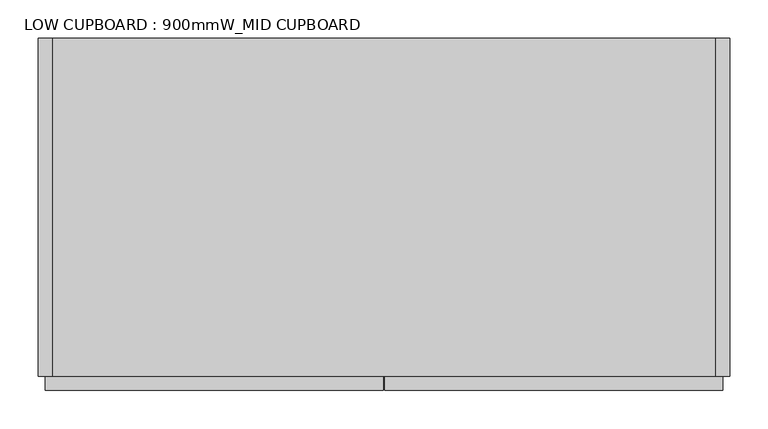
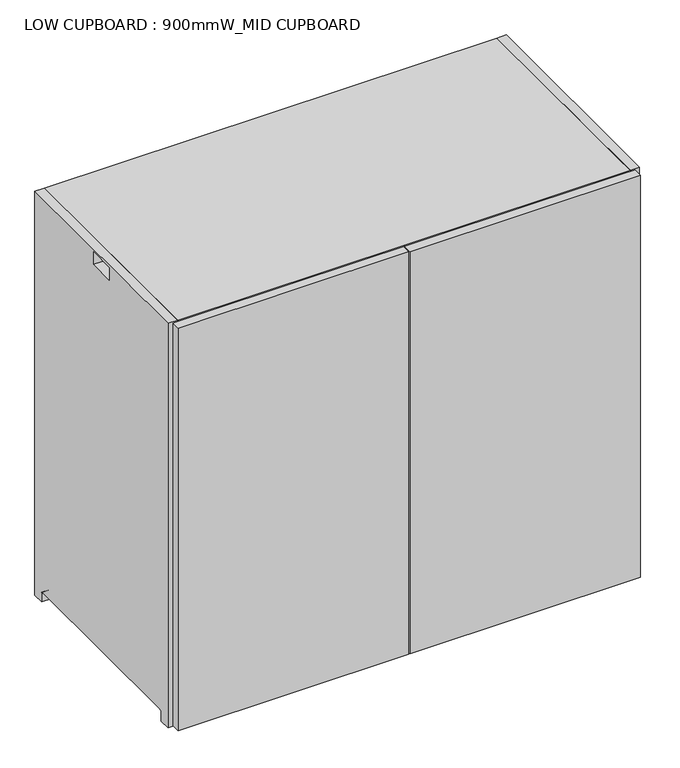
"""IFC4 building model written with IfcOpenShell, lengths in millimetres: furniture geometry, LOW CUPBOARD : 900mmW_MID CUPBOARD."""

from ifc_helpers import new_model, si_unit, point, frame, frame_2d, origin, place, context, project, spatial, polyline, circle_curve, trimmed, segment, composite_curve, outline, extrude, source, transform, mapped, element, save
from ifc_brep_helpers import plane_surface, revolved_surface, advanced_brep


def low_cupboard_900mmw_mid_cupboard_93831afd(model_context):
    return source(origin(), model_context, "Body", "SolidModel", [
        extrude(outline(composite_curve([segment(polyline([(-220.0, 815.0), (220.0, 815.0), (220.0, 0.0), (198.0, 0.0), (198.0, 17.0)]), True, "CONTINUOUS"), segment(trimmed(circle_curve(frame_2d((194.0, 17.0)), 4.0), [point((198.0, 17.0))], [point((194.0, 21.0))], True, "CARTESIAN"), True, "CONTINUOUS"), segment(polyline([(194.0, 21.0), (-194.0, 21.0)]), True, "CONTINUOUS"), segment(trimmed(circle_curve(frame_2d((-194.0, 17.0)), 4.0), [point((-194.0, 21.0))], [point((-198.0, 17.0))], True, "CARTESIAN"), True, "CONTINUOUS"), segment(polyline([(-198.0, 17.0), (-198.0, 0.0), (-220.0, 0.0), (-220.0, 815.0)]), True, "CONTINUOUS")], self_intersect=False), holes=[polyline([(-26.0, 810.0), (-26.0, 785.0), (26.0, 785.0), (26.0, 810.0), (-26.0, 810.0)])]), frame((-450.0, 0.0, 0.0), z_axis=(1.0, 0.0, 0.0), x_axis=(0.0, 1.0, 0.0)), (0.0, 0.0, 1.0), 18.0),
        advanced_brep(
        [(432.0, 220.0, 18.0), (-432.0, 220.0, 18.0), (-432.0, 197.8729833, 18.0), (-426.1019215, 197.8729833, 18.0), (-426.1019215, -197.8729833, 18.0), (-432.0, -197.8729833, 18.0), (-432.0, -220.0, 18.0), (432.0, -220.0, 18.0), (432.0, 220.0, 0.0), (432.0, -220.0, 0.0), (-432.0, -220.0, 0.0), (-432.0, -198.0, 0.0), (-426.1019215, -198.0, 0.0), (-426.1019215, 198.0, 0.0), (-432.0, 198.0, 0.0), (-432.0, 220.0, 0.0), (-432.0, 198.0, 17.0), (-432.0, -198.0, 17.0), (-426.1019215, 198.0, 17.0), (-426.1019215, -198.0, 17.0)],
        [
            (0, 1),
            (1, 2),
            (2, 3),
            (3, 4),
            (4, 5),
            (5, 6),
            (6, 7),
            (7, 0),
            (8, 9),
            (9, 10),
            (10, 11),
            (11, 12),
            (12, 13),
            (13, 14),
            (14, 15),
            (15, 8),
            (0, 8),
            (15, 1),
            (14, 16),
            (16, 2, circle_curve(frame((-432.0, 194.0, 17.0), z_axis=(1.0, 0.0, 0.0), x_axis=(0.0, 1.0, 0.0)), 4.0)),
            (10, 6),
            (5, 17, circle_curve(frame((-432.0, -194.0, 17.0), z_axis=(1.0, 0.0, 0.0), x_axis=(0.0, 1.0, 0.0)), 4.0)),
            (17, 11),
            (9, 7),
            (18, 13),
            (12, 19),
            (19, 4, circle_curve(frame((-426.1019215, -194.0, 17.0), z_axis=(-1.0, 0.0, 0.0), x_axis=(0.0, 1.0, 0.0)), 4.0)),
            (3, 18, circle_curve(frame((-426.1019215, 194.0, 17.0), z_axis=(-1.0, 0.0, 0.0), x_axis=(0.0, 1.0, 0.0)), 4.0)),
            (19, 17),
            (18, 16),
        ],
        [
            plane_surface(frame((-432.0, 220.0, 18.0), z_axis=(0.0, 0.0, 1.0), x_axis=(-1.0, 0.0, 0.0))),
            plane_surface(frame((-432.0, 220.0, 0.0), z_axis=(0.0, 0.0, -1.0), x_axis=(1.0, 0.0, 0.0))),
            plane_surface(frame((432.0, 220.0, 18.0), z_axis=(0.0, 1.0, 0.0), x_axis=(0.0, 0.0, -1.0))),
            plane_surface(frame((-432.0, 220.0, 18.0), z_axis=(-1.0, 0.0, 0.0), x_axis=(0.0, 0.0, -1.0))),
            plane_surface(frame((-432.0, -220.0, 18.0), z_axis=(0.0, -1.0, 0.0), x_axis=(0.0, 0.0, -1.0))),
            plane_surface(frame((432.0, -220.0, 18.0), z_axis=(1.0, 0.0, 0.0), x_axis=(0.0, 0.0, -1.0))),
            plane_surface(frame((-426.1019215, -190.0, 17.0), z_axis=(-1.0, 0.0, 0.0), x_axis=(0.0, 0.0, 1.0))),
            revolved_surface(polyline([(-426.1019215, -190.0, 17.0), (-432.0, -190.0, 17.0)]), (-456.0458228, -194.0, 17.0), (1.0, 0.0, 0.0)),
            plane_surface(frame((-426.1019215, -198.0, 17.0), z_axis=(0.0, 1.0, 0.0), x_axis=(-1.0, 0.0, 0.0))),
            plane_surface(frame((-426.1019215, 198.0, 0.0), z_axis=(0.0, -1.0, 0.0), x_axis=(-1.0, 0.0, 0.0))),
            revolved_surface(polyline([(-426.1019215, 198.0, 17.0), (-432.0, 198.0, 17.0)]), (-456.0458228, 194.0, 17.0), (1.0, 0.0, 0.0)),
        ],
        [
            (0, [[1, 2, 3, 4, 5, 6, 7, 8]]),
            (1, [[9, 10, 11, 12, 13, 14, 15, 16]]),
            (2, [[-1, 17, -16, 18]]),
            (3, [[-18, -15, 19, 20, -2]]),
            (3, [[21, -6, 22, 23, -11]]),
            (4, [[-7, -21, -10, 24]]),
            (5, [[-8, -24, -9, -17]]),
            (6, [[25, -13, 26, 27, -4, 28]]),
            (7, [[-27, 29, -22, -5]]),
            (8, [[-26, -12, -23, -29]]),
            (9, [[-25, 30, -19, -14]]),
            (10, [[-28, -3, -20, -30]]),
        ],
    ),
        extrude(outline(composite_curve([segment(polyline([(-220.0, 815.0), (220.0, 815.0), (220.0, 0.0), (198.0, 0.0), (198.0, 17.0)]), True, "CONTINUOUS"), segment(trimmed(circle_curve(frame_2d((194.0, 17.0)), 4.0), [point((198.0, 17.0))], [point((194.0, 21.0))], True, "CARTESIAN"), True, "CONTINUOUS"), segment(polyline([(194.0, 21.0), (-194.0, 21.0)]), True, "CONTINUOUS"), segment(trimmed(circle_curve(frame_2d((-194.0, 17.0)), 4.0), [point((-194.0, 21.0))], [point((-198.0, 17.0))], True, "CARTESIAN"), True, "CONTINUOUS"), segment(polyline([(-198.0, 17.0), (-198.0, 0.0), (-220.0, 0.0), (-220.0, 815.0)]), True, "CONTINUOUS")], self_intersect=False), holes=[polyline([(-26.0, 810.0), (-26.0, 785.0), (26.0, 785.0), (26.0, 810.0), (-26.0, 810.0)])]), frame((432.0, 0.0, 0.0), z_axis=(1.0, 0.0, 0.0), x_axis=(0.0, 1.0, 0.0)), (0.0, 0.0, 1.0), 18.0),
        extrude(outline(polyline([(432.0, 220.0), (432.0, 202.0), (-432.0, 202.0), (-432.0, 220.0), (432.0, 220.0)])), frame((0.0, 0.0, 18.0), z_axis=(0.0, 0.0, 1.0), x_axis=(1.0, 0.0, 0.0)), (0.0, 0.0, 1.0), 779.0),
        extrude(outline(polyline([(432.0, 202.0), (432.0, -220.0), (-432.0, -220.0), (-432.0, 202.0), (432.0, 202.0)])), frame((0.0, 0.0, 398.5), z_axis=(0.0, 0.0, 1.0), x_axis=(1.0, 0.0, 0.0)), (0.0, 0.0, 1.0), 18.0),
        extrude(outline(polyline([(432.0, 220.0), (432.0, -220.0), (-432.0, -220.0), (-432.0, 220.0), (432.0, 220.0)])), frame((0.0, 0.0, 797.0), z_axis=(0.0, 0.0, 1.0), x_axis=(1.0, 0.0, 0.0)), (0.0, 0.0, 1.0), 18.0),
        extrude(outline(polyline([(9.0, 202.0), (9.0, -220.0), (-9.0, -220.0), (-9.0, 202.0), (9.0, 202.0)])), frame((0.0, 0.0, 18.0), z_axis=(0.0, 0.0, 1.0), x_axis=(1.0, 0.0, 0.0)), (0.0, 0.0, 1.0), 779.0),
        extrude(outline(polyline([(441.0, -220.0), (441.0, -238.0), (1.0, -238.0), (1.0, -220.0), (441.0, -220.0)])), frame((0.0, 0.0, 2.0), z_axis=(0.0, 0.0, 1.0), x_axis=(1.0, 0.0, 0.0)), (0.0, 0.0, 1.0), 811.0),
        extrude(outline(polyline([(-441.0, -220.0), (-1.0, -220.0), (-1.0, -238.0), (-441.0, -238.0), (-441.0, -220.0)])), frame((0.0, 0.0, 2.0), z_axis=(0.0, 0.0, 1.0), x_axis=(1.0, 0.0, 0.0)), (0.0, 0.0, 1.0), 811.0),
    ])


if __name__ == "__main__":
    model = new_model("IFC4")
    model_context = context("Model", 3, world=origin())
    ifc_project = project(units=[si_unit("LENGTHUNIT", "METRE", prefix="MILLI")], contexts=[model_context])
    site = spatial("IfcSite", under=ifc_project)
    building = spatial("IfcBuilding", under=site)
    placement = place(None, origin())
    low_cupboard_900mmw_mid_cupboard_shape = low_cupboard_900mmw_mid_cupboard_93831afd(model_context)
    element("IfcFurniture", 1, ObjectType="LOW CUPBOARD : 900mmW_MID CUPBOARD", at=placement, inside=building, context=model_context, shape_type="MappedRepresentation", body=[
        mapped(low_cupboard_900mmw_mid_cupboard_shape, transform((0.0, 0.0, 0.0), x_axis=(1.0, 0.0, 0.0), y_axis=(0.0, 1.0, 0.0), z_axis=(0.0, 0.0, 1.0))),
    ])
    save(model, "model.ifc")
